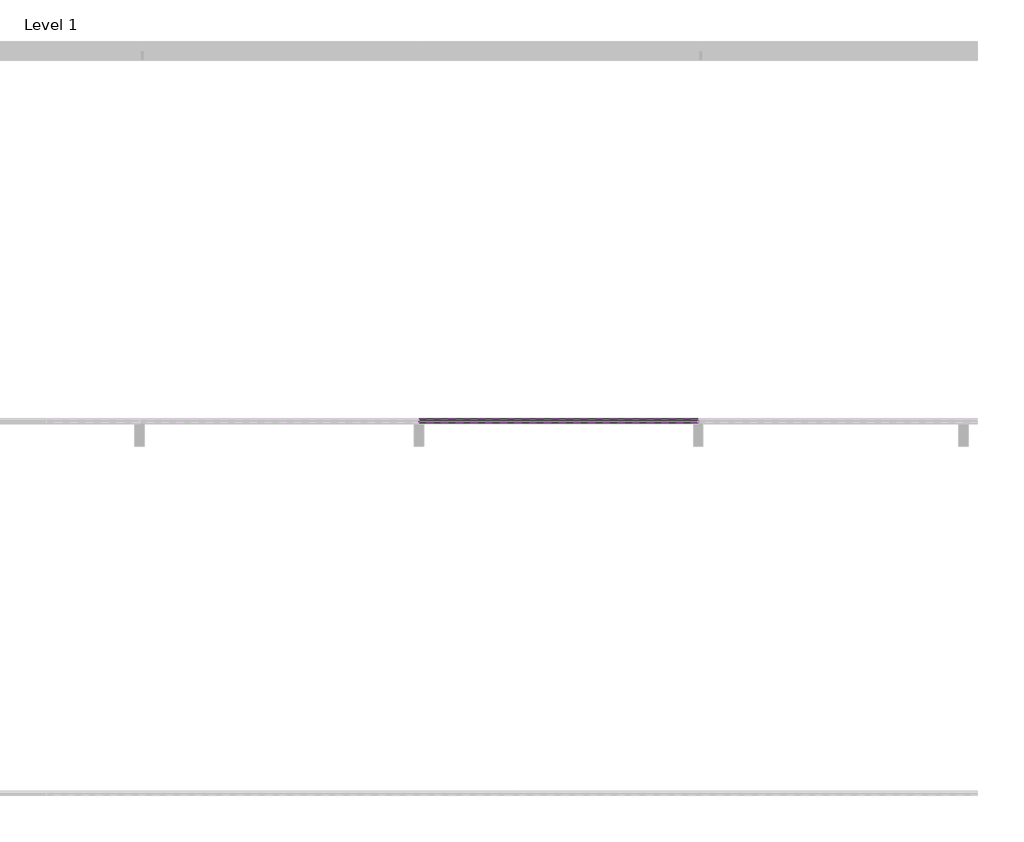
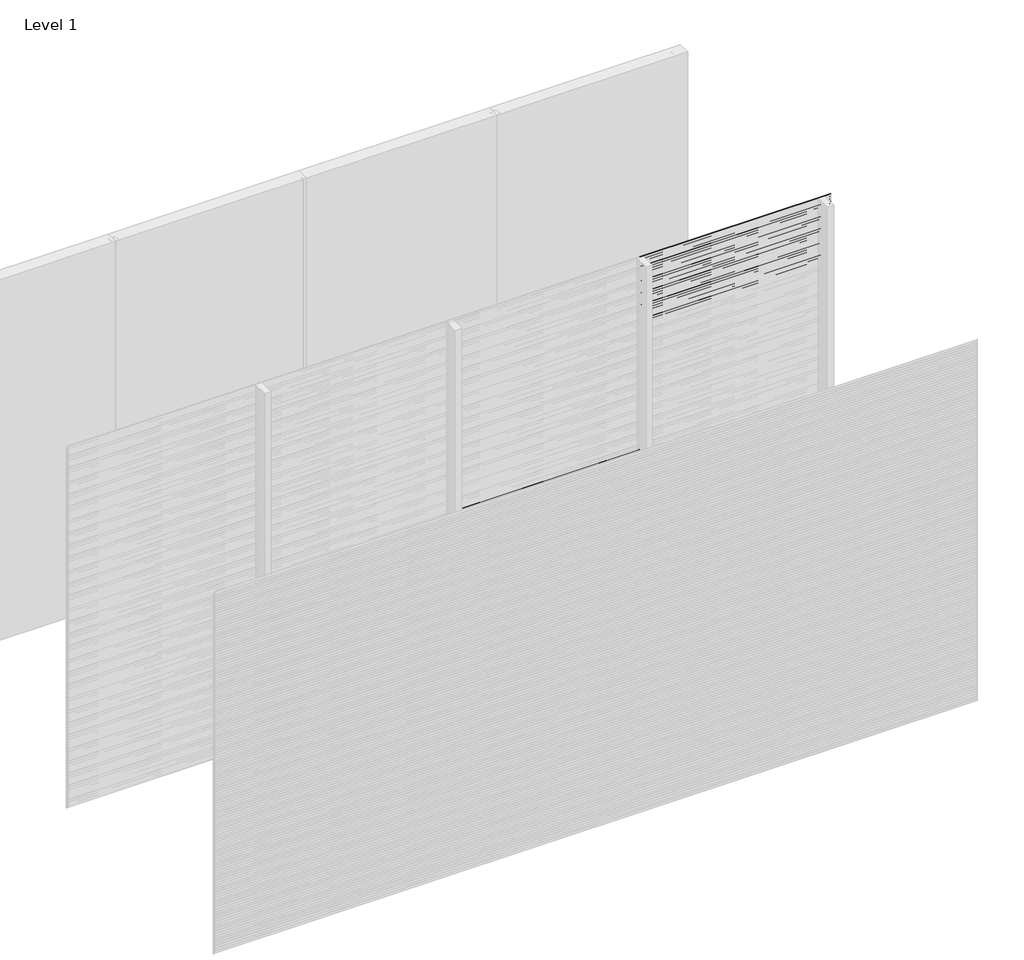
# One storey, part 7 of 31: 98 proxies.
"""IFC4 building model written with IfcOpenShell, lengths in millimetres."""

from ifc_helpers import new_model, si_unit, frame, origin, place, context, project, spatial, polyline, outline, extrude, element, save

model = new_model("IFC4")

# Units and contexts
model_context = context("Model", 3, world=origin())
ifc_project = project(units=[si_unit("LENGTHUNIT", "METRE", prefix="MILLI")], contexts=[model_context])

# Site, building, storey
site = spatial("IfcSite", under=ifc_project)
building = spatial("IfcBuilding", under=site)
storey = spatial("IfcBuildingStorey", under=building, Name="Level 1", Elevation=0.0)

# Proxies
placement = place(None, origin())
element("IfcBuildingElementProxy", 1, Name="Wall Sweeps", at=placement, inside=storey, context=model_context, shape_type="SweptSolid", body=[
    extrude(outline(polyline([(-17995.0, 3000.0), (-17995.0, 2988.942893), (-17976.0, 2973.0), (-17976.0, 2960.0), (-17997.0, 2977.6210923), (-17997.0, 3000.0), (-17995.0, 3000.0)])), frame((4499.9999998, 0.0, 0.0), z_axis=(1.0, 0.0, 0.0), x_axis=(0.0, 1.0, 0.0)), (0.0, 0.0, 1.0), 1500.0000002),
])
element("IfcBuildingElementProxy", 2, Name="Wall Sweeps", at=placement, inside=storey, context=model_context, shape_type="SweptSolid", body=[
    extrude(outline(polyline([(-17995.0, 2980.0), (-17995.0, 2968.942893), (-17976.0, 2953.0), (-17976.0, 2940.0), (-17997.0, 2957.6210923), (-17997.0, 2980.0), (-17995.0, 2980.0)])), frame((4499.9999998, 0.0, 0.0), z_axis=(1.0, 0.0, 0.0), x_axis=(0.0, 1.0, 0.0)), (0.0, 0.0, 1.0), 1500.0000002),
])
element("IfcBuildingElementProxy", 3, Name="Wall Sweeps", at=placement, inside=storey, context=model_context, shape_type="SweptSolid", body=[
    extrude(outline(polyline([(-17995.0, 2960.0), (-17995.0, 2948.942893), (-17976.0, 2933.0), (-17976.0, 2920.0), (-17997.0, 2937.6210923), (-17997.0, 2960.0), (-17995.0, 2960.0)])), frame((4499.9999998, 0.0, 0.0), z_axis=(1.0, 0.0, 0.0), x_axis=(0.0, 1.0, 0.0)), (0.0, 0.0, 1.0), 1500.0000002),
])
element("IfcBuildingElementProxy", 4, Name="Wall Sweeps", at=placement, inside=storey, context=model_context, shape_type="SweptSolid", body=[
    extrude(outline(polyline([(-17995.0, 2940.0), (-17995.0, 2928.942893), (-17976.0, 2913.0), (-17976.0, 2900.0), (-17997.0, 2917.6210923), (-17997.0, 2940.0), (-17995.0, 2940.0)])), frame((4499.9999998, 0.0, 0.0), z_axis=(1.0, 0.0, 0.0), x_axis=(0.0, 1.0, 0.0)), (0.0, 0.0, 1.0), 1500.0000002),
])
element("IfcBuildingElementProxy", 5, Name="Wall Sweeps", at=placement, inside=storey, context=model_context, shape_type="SweptSolid", body=[
    extrude(outline(polyline([(-17995.0, 2920.0), (-17995.0, 2908.942893), (-17976.0, 2893.0), (-17976.0, 2880.0), (-17997.0, 2897.6210923), (-17997.0, 2920.0), (-17995.0, 2920.0)])), frame((4499.9999998, 0.0, 0.0), z_axis=(1.0, 0.0, 0.0), x_axis=(0.0, 1.0, 0.0)), (0.0, 0.0, 1.0), 1500.0000002),
])
element("IfcBuildingElementProxy", 6, Name="Wall Sweeps", at=placement, inside=storey, context=model_context, shape_type="SweptSolid", body=[
    extrude(outline(polyline([(-17995.0, 2900.0), (-17995.0, 2888.942893), (-17976.0, 2873.0), (-17976.0, 2860.0), (-17997.0, 2877.6210923), (-17997.0, 2900.0), (-17995.0, 2900.0)])), frame((4499.9999998, 0.0, 0.0), z_axis=(1.0, 0.0, 0.0), x_axis=(0.0, 1.0, 0.0)), (0.0, 0.0, 1.0), 1500.0000002),
])
element("IfcBuildingElementProxy", 7, Name="Wall Sweeps", at=placement, inside=storey, context=model_context, shape_type="SweptSolid", body=[
    extrude(outline(polyline([(-17995.0, 2880.0), (-17995.0, 2868.942893), (-17976.0, 2853.0), (-17976.0, 2840.0), (-17997.0, 2857.6210923), (-17997.0, 2880.0), (-17995.0, 2880.0)])), frame((4499.9999998, 0.0, 0.0), z_axis=(1.0, 0.0, 0.0), x_axis=(0.0, 1.0, 0.0)), (0.0, 0.0, 1.0), 1500.0000002),
])
element("IfcBuildingElementProxy", 8, Name="Wall Sweeps", at=placement, inside=storey, context=model_context, shape_type="SweptSolid", body=[
    extrude(outline(polyline([(-17995.0, 2860.0), (-17995.0, 2848.942893), (-17976.0, 2833.0), (-17976.0, 2820.0), (-17997.0, 2837.6210923), (-17997.0, 2860.0), (-17995.0, 2860.0)])), frame((4499.9999998, 0.0, 0.0), z_axis=(1.0, 0.0, 0.0), x_axis=(0.0, 1.0, 0.0)), (0.0, 0.0, 1.0), 1500.0000002),
])
element("IfcBuildingElementProxy", 9, Name="Wall Sweeps", at=placement, inside=storey, context=model_context, shape_type="SweptSolid", body=[
    extrude(outline(polyline([(-17995.0, 2840.0), (-17995.0, 2828.942893), (-17976.0, 2813.0), (-17976.0, 2800.0), (-17997.0, 2817.6210923), (-17997.0, 2840.0), (-17995.0, 2840.0)])), frame((4499.9999998, 0.0, 0.0), z_axis=(1.0, 0.0, 0.0), x_axis=(0.0, 1.0, 0.0)), (0.0, 0.0, 1.0), 1500.0000002),
])
element("IfcBuildingElementProxy", 10, Name="Wall Sweeps", at=placement, inside=storey, context=model_context, shape_type="SweptSolid", body=[
    extrude(outline(polyline([(-17995.0, 2820.0), (-17995.0, 2808.942893), (-17976.0, 2793.0), (-17976.0, 2780.0), (-17997.0, 2797.6210923), (-17997.0, 2820.0), (-17995.0, 2820.0)])), frame((4499.9999998, 0.0, 0.0), z_axis=(1.0, 0.0, 0.0), x_axis=(0.0, 1.0, 0.0)), (0.0, 0.0, 1.0), 1500.0000002),
])
element("IfcBuildingElementProxy", 11, Name="Wall Sweeps", at=placement, inside=storey, context=model_context, shape_type="SweptSolid", body=[
    extrude(outline(polyline([(-17995.0, 2800.0), (-17995.0, 2788.942893), (-17976.0, 2773.0), (-17976.0, 2760.0), (-17997.0, 2777.6210923), (-17997.0, 2800.0), (-17995.0, 2800.0)])), frame((4499.9999998, 0.0, 0.0), z_axis=(1.0, 0.0, 0.0), x_axis=(0.0, 1.0, 0.0)), (0.0, 0.0, 1.0), 1500.0000002),
])
element("IfcBuildingElementProxy", 12, Name="Wall Sweeps", at=placement, inside=storey, context=model_context, shape_type="SweptSolid", body=[
    extrude(outline(polyline([(-17995.0, 2780.0), (-17995.0, 2768.942893), (-17976.0, 2753.0), (-17976.0, 2740.0), (-17997.0, 2757.6210923), (-17997.0, 2780.0), (-17995.0, 2780.0)])), frame((4499.9999998, 0.0, 0.0), z_axis=(1.0, 0.0, 0.0), x_axis=(0.0, 1.0, 0.0)), (0.0, 0.0, 1.0), 1500.0000002),
])
element("IfcBuildingElementProxy", 13, Name="Wall Sweeps", at=placement, inside=storey, context=model_context, shape_type="SweptSolid", body=[
    extrude(outline(polyline([(-17995.0, 2760.0), (-17995.0, 2748.942893), (-17976.0, 2733.0), (-17976.0, 2720.0), (-17997.0, 2737.6210923), (-17997.0, 2760.0), (-17995.0, 2760.0)])), frame((4499.9999998, 0.0, 0.0), z_axis=(1.0, 0.0, 0.0), x_axis=(0.0, 1.0, 0.0)), (0.0, 0.0, 1.0), 1500.0000002),
])
element("IfcBuildingElementProxy", 14, Name="Wall Sweeps", at=placement, inside=storey, context=model_context, shape_type="SweptSolid", body=[
    extrude(outline(polyline([(-17995.0, 2740.0), (-17995.0, 2728.942893), (-17976.0, 2713.0), (-17976.0, 2700.0), (-17997.0, 2717.6210923), (-17997.0, 2740.0), (-17995.0, 2740.0)])), frame((4499.9999998, 0.0, 0.0), z_axis=(1.0, 0.0, 0.0), x_axis=(0.0, 1.0, 0.0)), (0.0, 0.0, 1.0), 1500.0000002),
])
element("IfcBuildingElementProxy", 15, Name="Wall Sweeps", at=placement, inside=storey, context=model_context, shape_type="SweptSolid", body=[
    extrude(outline(polyline([(-17995.0, 2720.0), (-17995.0, 2708.942893), (-17976.0, 2693.0), (-17976.0, 2680.0), (-17997.0, 2697.6210923), (-17997.0, 2720.0), (-17995.0, 2720.0)])), frame((4499.9999998, 0.0, 0.0), z_axis=(1.0, 0.0, 0.0), x_axis=(0.0, 1.0, 0.0)), (0.0, 0.0, 1.0), 1500.0000002),
])
element("IfcBuildingElementProxy", 16, Name="Wall Sweeps", at=placement, inside=storey, context=model_context, shape_type="SweptSolid", body=[
    extrude(outline(polyline([(-17995.0, 2700.0), (-17995.0, 2688.942893), (-17976.0, 2673.0), (-17976.0, 2660.0), (-17997.0, 2677.6210923), (-17997.0, 2700.0), (-17995.0, 2700.0)])), frame((4499.9999998, 0.0, 0.0), z_axis=(1.0, 0.0, 0.0), x_axis=(0.0, 1.0, 0.0)), (0.0, 0.0, 1.0), 1500.0000002),
])
element("IfcBuildingElementProxy", 17, Name="Wall Sweeps", at=placement, inside=storey, context=model_context, shape_type="SweptSolid", body=[
    extrude(outline(polyline([(-17995.0, 2680.0), (-17995.0, 2668.942893), (-17976.0, 2653.0), (-17976.0, 2640.0), (-17997.0, 2657.6210923), (-17997.0, 2680.0), (-17995.0, 2680.0)])), frame((4499.9999998, 0.0, 0.0), z_axis=(1.0, 0.0, 0.0), x_axis=(0.0, 1.0, 0.0)), (0.0, 0.0, 1.0), 1500.0000002),
])
element("IfcBuildingElementProxy", 18, Name="Wall Sweeps", at=placement, inside=storey, context=model_context, shape_type="SweptSolid", body=[
    extrude(outline(polyline([(-17995.0, 2660.0), (-17995.0, 2648.942893), (-17976.0, 2633.0), (-17976.0, 2620.0), (-17997.0, 2637.6210923), (-17997.0, 2660.0), (-17995.0, 2660.0)])), frame((4499.9999998, 0.0, 0.0), z_axis=(1.0, 0.0, 0.0), x_axis=(0.0, 1.0, 0.0)), (0.0, 0.0, 1.0), 1500.0000002),
])
element("IfcBuildingElementProxy", 19, Name="Wall Sweeps", at=placement, inside=storey, context=model_context, shape_type="SweptSolid", body=[
    extrude(outline(polyline([(-17995.0, 2640.0), (-17995.0, 2628.942893), (-17976.0, 2613.0), (-17976.0, 2600.0), (-17997.0, 2617.6210923), (-17997.0, 2640.0), (-17995.0, 2640.0)])), frame((4499.9999998, 0.0, 0.0), z_axis=(1.0, 0.0, 0.0), x_axis=(0.0, 1.0, 0.0)), (0.0, 0.0, 1.0), 1500.0000002),
])
element("IfcBuildingElementProxy", 20, Name="Wall Sweeps", at=placement, inside=storey, context=model_context, shape_type="SweptSolid", body=[
    extrude(outline(polyline([(-17995.0, 2620.0), (-17995.0, 2608.942893), (-17976.0, 2593.0), (-17976.0, 2580.0), (-17997.0, 2597.6210923), (-17997.0, 2620.0), (-17995.0, 2620.0)])), frame((4499.9999998, 0.0, 0.0), z_axis=(1.0, 0.0, 0.0), x_axis=(0.0, 1.0, 0.0)), (0.0, 0.0, 1.0), 1500.0000002),
])
element("IfcBuildingElementProxy", 21, Name="Wall Sweeps", at=placement, inside=storey, context=model_context, shape_type="SweptSolid", body=[
    extrude(outline(polyline([(-17995.0, 2600.0), (-17995.0, 2588.942893), (-17976.0, 2573.0), (-17976.0, 2560.0), (-17997.0, 2577.6210923), (-17997.0, 2600.0), (-17995.0, 2600.0)])), frame((4499.9999998, 0.0, 0.0), z_axis=(1.0, 0.0, 0.0), x_axis=(0.0, 1.0, 0.0)), (0.0, 0.0, 1.0), 1500.0000002),
])
element("IfcBuildingElementProxy", 22, Name="Wall Sweeps", at=placement, inside=storey, context=model_context, shape_type="SweptSolid", body=[
    extrude(outline(polyline([(-17995.0, 2580.0), (-17995.0, 2568.942893), (-17976.0, 2553.0), (-17976.0, 2540.0), (-17997.0, 2557.6210923), (-17997.0, 2580.0), (-17995.0, 2580.0)])), frame((4499.9999998, 0.0, 0.0), z_axis=(1.0, 0.0, 0.0), x_axis=(0.0, 1.0, 0.0)), (0.0, 0.0, 1.0), 1500.0000002),
])
element("IfcBuildingElementProxy", 23, Name="Wall Sweeps", at=placement, inside=storey, context=model_context, shape_type="SweptSolid", body=[
    extrude(outline(polyline([(-17995.0, 2560.0), (-17995.0, 2548.942893), (-17976.0, 2533.0), (-17976.0, 2520.0), (-17997.0, 2537.6210923), (-17997.0, 2560.0), (-17995.0, 2560.0)])), frame((4499.9999998, 0.0, 0.0), z_axis=(1.0, 0.0, 0.0), x_axis=(0.0, 1.0, 0.0)), (0.0, 0.0, 1.0), 1500.0000002),
])
element("IfcBuildingElementProxy", 24, Name="Wall Sweeps", at=placement, inside=storey, context=model_context, shape_type="SweptSolid", body=[
    extrude(outline(polyline([(-17995.0, 2540.0), (-17995.0, 2528.942893), (-17976.0, 2513.0), (-17976.0, 2500.0), (-17997.0, 2517.6210923), (-17997.0, 2540.0), (-17995.0, 2540.0)])), frame((4499.9999998, 0.0, 0.0), z_axis=(1.0, 0.0, 0.0), x_axis=(0.0, 1.0, 0.0)), (0.0, 0.0, 1.0), 1500.0000002),
])
element("IfcBuildingElementProxy", 25, Name="Wall Sweeps", at=placement, inside=storey, context=model_context, shape_type="SweptSolid", body=[
    extrude(outline(polyline([(-17995.0, 2520.0), (-17995.0, 2508.942893), (-17976.0, 2493.0), (-17976.0, 2480.0), (-17997.0, 2497.6210923), (-17997.0, 2520.0), (-17995.0, 2520.0)])), frame((4499.9999998, 0.0, 0.0), z_axis=(1.0, 0.0, 0.0), x_axis=(0.0, 1.0, 0.0)), (0.0, 0.0, 1.0), 1500.0000002),
])
element("IfcBuildingElementProxy", 26, Name="Wall Sweeps", at=placement, inside=storey, context=model_context, shape_type="SweptSolid", body=[
    extrude(outline(polyline([(-17995.0, 2500.0), (-17995.0, 2488.942893), (-17976.0, 2473.0), (-17976.0, 2460.0), (-17997.0, 2477.6210923), (-17997.0, 2500.0), (-17995.0, 2500.0)])), frame((4499.9999998, 0.0, 0.0), z_axis=(1.0, 0.0, 0.0), x_axis=(0.0, 1.0, 0.0)), (0.0, 0.0, 1.0), 1500.0000002),
])
element("IfcBuildingElementProxy", 27, Name="Wall Sweeps", at=placement, inside=storey, context=model_context, shape_type="SweptSolid", body=[
    extrude(outline(polyline([(-17995.0, 2480.0), (-17995.0, 2468.942893), (-17976.0, 2453.0), (-17976.0, 2440.0), (-17997.0, 2457.6210923), (-17997.0, 2480.0), (-17995.0, 2480.0)])), frame((4499.9999998, 0.0, 0.0), z_axis=(1.0, 0.0, 0.0), x_axis=(0.0, 1.0, 0.0)), (0.0, 0.0, 1.0), 1500.0000002),
])
element("IfcBuildingElementProxy", 28, Name="Wall Sweeps", at=placement, inside=storey, context=model_context, shape_type="SweptSolid", body=[
    extrude(outline(polyline([(-17995.0, 1420.0), (-17995.0, 1408.942893), (-17976.0, 1393.0), (-17976.0, 1380.0), (-17997.0, 1397.6210923), (-17997.0, 1420.0), (-17995.0, 1420.0)])), frame((3000.0, 0.0, 0.0), z_axis=(1.0, 0.0, 0.0), x_axis=(0.0, 1.0, 0.0)), (0.0, 0.0, 1.0), 1499.9999998),
])
element("IfcBuildingElementProxy", 29, Name="Wall Sweeps", at=placement, inside=storey, context=model_context, shape_type="SweptSolid", body=[
    extrude(outline(polyline([(-17995.0, 1400.0), (-17995.0, 1388.942893), (-17976.0, 1373.0), (-17976.0, 1360.0), (-17997.0, 1377.6210923), (-17997.0, 1400.0), (-17995.0, 1400.0)])), frame((3000.0, 0.0, 0.0), z_axis=(1.0, 0.0, 0.0), x_axis=(0.0, 1.0, 0.0)), (0.0, 0.0, 1.0), 1499.9999998),
])
element("IfcBuildingElementProxy", 30, Name="Wall Sweeps", at=placement, inside=storey, context=model_context, shape_type="SweptSolid", body=[
    extrude(outline(polyline([(-17995.0, 1380.0), (-17995.0, 1368.942893), (-17976.0, 1353.0), (-17976.0, 1340.0), (-17997.0, 1357.6210923), (-17997.0, 1380.0), (-17995.0, 1380.0)])), frame((3000.0, 0.0, 0.0), z_axis=(1.0, 0.0, 0.0), x_axis=(0.0, 1.0, 0.0)), (0.0, 0.0, 1.0), 1499.9999998),
])
element("IfcBuildingElementProxy", 31, Name="Wall Sweeps", at=placement, inside=storey, context=model_context, shape_type="SweptSolid", body=[
    extrude(outline(polyline([(-17995.0, 1360.0), (-17995.0, 1348.942893), (-17976.0, 1333.0), (-17976.0, 1320.0), (-17997.0, 1337.6210923), (-17997.0, 1360.0), (-17995.0, 1360.0)])), frame((3000.0, 0.0, 0.0), z_axis=(1.0, 0.0, 0.0), x_axis=(0.0, 1.0, 0.0)), (0.0, 0.0, 1.0), 1499.9999998),
])
element("IfcBuildingElementProxy", 32, Name="Wall Sweeps", at=placement, inside=storey, context=model_context, shape_type="SweptSolid", body=[
    extrude(outline(polyline([(-17995.0, 1340.0), (-17995.0, 1328.942893), (-17976.0, 1313.0), (-17976.0, 1300.0), (-17997.0, 1317.6210923), (-17997.0, 1340.0), (-17995.0, 1340.0)])), frame((3000.0, 0.0, 0.0), z_axis=(1.0, 0.0, 0.0), x_axis=(0.0, 1.0, 0.0)), (0.0, 0.0, 1.0), 1499.9999998),
])
element("IfcBuildingElementProxy", 33, Name="Wall Sweeps", at=placement, inside=storey, context=model_context, shape_type="SweptSolid", body=[
    extrude(outline(polyline([(-17995.0, 1320.0), (-17995.0, 1308.942893), (-17976.0, 1293.0), (-17976.0, 1280.0), (-17997.0, 1297.6210923), (-17997.0, 1320.0), (-17995.0, 1320.0)])), frame((3000.0, 0.0, 0.0), z_axis=(1.0, 0.0, 0.0), x_axis=(0.0, 1.0, 0.0)), (0.0, 0.0, 1.0), 1499.9999998),
])
element("IfcBuildingElementProxy", 34, Name="Wall Sweeps", at=placement, inside=storey, context=model_context, shape_type="SweptSolid", body=[
    extrude(outline(polyline([(-17995.0, 1300.0), (-17995.0, 1288.942893), (-17976.0, 1273.0), (-17976.0, 1260.0), (-17997.0, 1277.6210923), (-17997.0, 1300.0), (-17995.0, 1300.0)])), frame((3000.0, 0.0, 0.0), z_axis=(1.0, 0.0, 0.0), x_axis=(0.0, 1.0, 0.0)), (0.0, 0.0, 1.0), 1499.9999998),
])
element("IfcBuildingElementProxy", 35, Name="Wall Sweeps", at=placement, inside=storey, context=model_context, shape_type="SweptSolid", body=[
    extrude(outline(polyline([(-17995.0, 1280.0), (-17995.0, 1268.942893), (-17976.0, 1253.0), (-17976.0, 1240.0), (-17997.0, 1257.6210923), (-17997.0, 1280.0), (-17995.0, 1280.0)])), frame((3000.0, 0.0, 0.0), z_axis=(1.0, 0.0, 0.0), x_axis=(0.0, 1.0, 0.0)), (0.0, 0.0, 1.0), 1499.9999998),
])
element("IfcBuildingElementProxy", 36, Name="Wall Sweeps", at=placement, inside=storey, context=model_context, shape_type="SweptSolid", body=[
    extrude(outline(polyline([(-17995.0, 1260.0), (-17995.0, 1248.942893), (-17976.0, 1233.0), (-17976.0, 1220.0), (-17997.0, 1237.6210923), (-17997.0, 1260.0), (-17995.0, 1260.0)])), frame((3000.0, 0.0, 0.0), z_axis=(1.0, 0.0, 0.0), x_axis=(0.0, 1.0, 0.0)), (0.0, 0.0, 1.0), 1499.9999998),
])
element("IfcBuildingElementProxy", 37, Name="Wall Sweeps", at=placement, inside=storey, context=model_context, shape_type="SweptSolid", body=[
    extrude(outline(polyline([(-17995.0, 1240.0), (-17995.0, 1228.942893), (-17976.0, 1213.0), (-17976.0, 1200.0), (-17997.0, 1217.6210923), (-17997.0, 1240.0), (-17995.0, 1240.0)])), frame((3000.0, 0.0, 0.0), z_axis=(1.0, 0.0, 0.0), x_axis=(0.0, 1.0, 0.0)), (0.0, 0.0, 1.0), 1499.9999998),
])
element("IfcBuildingElementProxy", 38, Name="Wall Sweeps", at=placement, inside=storey, context=model_context, shape_type="SweptSolid", body=[
    extrude(outline(polyline([(-17995.0, 1220.0), (-17995.0, 1208.942893), (-17976.0, 1193.0), (-17976.0, 1180.0), (-17997.0, 1197.6210923), (-17997.0, 1220.0), (-17995.0, 1220.0)])), frame((3000.0, 0.0, 0.0), z_axis=(1.0, 0.0, 0.0), x_axis=(0.0, 1.0, 0.0)), (0.0, 0.0, 1.0), 1499.9999998),
])
element("IfcBuildingElementProxy", 39, Name="Wall Sweeps", at=placement, inside=storey, context=model_context, shape_type="SweptSolid", body=[
    extrude(outline(polyline([(-17995.0, 1200.0), (-17995.0, 1188.942893), (-17976.0, 1173.0), (-17976.0, 1160.0), (-17997.0, 1177.6210923), (-17997.0, 1200.0), (-17995.0, 1200.0)])), frame((3000.0, 0.0, 0.0), z_axis=(1.0, 0.0, 0.0), x_axis=(0.0, 1.0, 0.0)), (0.0, 0.0, 1.0), 1499.9999998),
])
element("IfcBuildingElementProxy", 40, Name="Wall Sweeps", at=placement, inside=storey, context=model_context, shape_type="SweptSolid", body=[
    extrude(outline(polyline([(-17995.0, 1180.0), (-17995.0, 1168.942893), (-17976.0, 1153.0), (-17976.0, 1140.0), (-17997.0, 1157.6210923), (-17997.0, 1180.0), (-17995.0, 1180.0)])), frame((3000.0, 0.0, 0.0), z_axis=(1.0, 0.0, 0.0), x_axis=(0.0, 1.0, 0.0)), (0.0, 0.0, 1.0), 1499.9999998),
])
element("IfcBuildingElementProxy", 41, Name="Wall Sweeps", at=placement, inside=storey, context=model_context, shape_type="SweptSolid", body=[
    extrude(outline(polyline([(-17995.0, 1160.0), (-17995.0, 1148.942893), (-17976.0, 1133.0), (-17976.0, 1120.0), (-17997.0, 1137.6210923), (-17997.0, 1160.0), (-17995.0, 1160.0)])), frame((3000.0, 0.0, 0.0), z_axis=(1.0, 0.0, 0.0), x_axis=(0.0, 1.0, 0.0)), (0.0, 0.0, 1.0), 1499.9999998),
])
element("IfcBuildingElementProxy", 42, Name="Wall Sweeps", at=placement, inside=storey, context=model_context, shape_type="SweptSolid", body=[
    extrude(outline(polyline([(-17995.0, 1140.0), (-17995.0, 1128.942893), (-17976.0, 1113.0), (-17976.0, 1100.0), (-17997.0, 1117.6210923), (-17997.0, 1140.0), (-17995.0, 1140.0)])), frame((3000.0, 0.0, 0.0), z_axis=(1.0, 0.0, 0.0), x_axis=(0.0, 1.0, 0.0)), (0.0, 0.0, 1.0), 1499.9999998),
])
element("IfcBuildingElementProxy", 43, Name="Wall Sweeps", at=placement, inside=storey, context=model_context, shape_type="SweptSolid", body=[
    extrude(outline(polyline([(-17995.0, 1120.0), (-17995.0, 1108.942893), (-17976.0, 1093.0), (-17976.0, 1080.0), (-17997.0, 1097.6210923), (-17997.0, 1120.0), (-17995.0, 1120.0)])), frame((3000.0, 0.0, 0.0), z_axis=(1.0, 0.0, 0.0), x_axis=(0.0, 1.0, 0.0)), (0.0, 0.0, 1.0), 1499.9999998),
])
element("IfcBuildingElementProxy", 44, Name="Wall Sweeps", at=placement, inside=storey, context=model_context, shape_type="SweptSolid", body=[
    extrude(outline(polyline([(-17995.0, 1100.0), (-17995.0, 1088.942893), (-17976.0, 1073.0), (-17976.0, 1060.0), (-17997.0, 1077.6210923), (-17997.0, 1100.0), (-17995.0, 1100.0)])), frame((3000.0, 0.0, 0.0), z_axis=(1.0, 0.0, 0.0), x_axis=(0.0, 1.0, 0.0)), (0.0, 0.0, 1.0), 1499.9999998),
])
element("IfcBuildingElementProxy", 45, Name="Wall Sweeps", at=placement, inside=storey, context=model_context, shape_type="SweptSolid", body=[
    extrude(outline(polyline([(-17995.0, 1080.0), (-17995.0, 1068.942893), (-17976.0, 1053.0), (-17976.0, 1040.0), (-17997.0, 1057.6210923), (-17997.0, 1080.0), (-17995.0, 1080.0)])), frame((3000.0, 0.0, 0.0), z_axis=(1.0, 0.0, 0.0), x_axis=(0.0, 1.0, 0.0)), (0.0, 0.0, 1.0), 1499.9999998),
])
element("IfcBuildingElementProxy", 46, Name="Wall Sweeps", at=placement, inside=storey, context=model_context, shape_type="SweptSolid", body=[
    extrude(outline(polyline([(-17995.0, 1060.0), (-17995.0, 1048.942893), (-17976.0, 1033.0), (-17976.0, 1020.0), (-17997.0, 1037.6210923), (-17997.0, 1060.0), (-17995.0, 1060.0)])), frame((3000.0, 0.0, 0.0), z_axis=(1.0, 0.0, 0.0), x_axis=(0.0, 1.0, 0.0)), (0.0, 0.0, 1.0), 1499.9999998),
])
element("IfcBuildingElementProxy", 47, Name="Wall Sweeps", at=placement, inside=storey, context=model_context, shape_type="SweptSolid", body=[
    extrude(outline(polyline([(-17995.0, 1040.0), (-17995.0, 1028.942893), (-17976.0, 1013.0), (-17976.0, 1000.0), (-17997.0, 1017.6210923), (-17997.0, 1040.0), (-17995.0, 1040.0)])), frame((3000.0, 0.0, 0.0), z_axis=(1.0, 0.0, 0.0), x_axis=(0.0, 1.0, 0.0)), (0.0, 0.0, 1.0), 1499.9999998),
])
element("IfcBuildingElementProxy", 48, Name="Wall Sweeps", at=placement, inside=storey, context=model_context, shape_type="SweptSolid", body=[
    extrude(outline(polyline([(-17995.0, 1020.0), (-17995.0, 1008.942893), (-17976.0, 993.0), (-17976.0, 980.0), (-17997.0, 997.6210923), (-17997.0, 1020.0), (-17995.0, 1020.0)])), frame((3000.0, 0.0, 0.0), z_axis=(1.0, 0.0, 0.0), x_axis=(0.0, 1.0, 0.0)), (0.0, 0.0, 1.0), 1499.9999998),
])
element("IfcBuildingElementProxy", 49, Name="Wall Sweeps", at=placement, inside=storey, context=model_context, shape_type="SweptSolid", body=[
    extrude(outline(polyline([(-17995.0, 1000.0), (-17995.0, 988.942893), (-17976.0, 973.0), (-17976.0, 960.0), (-17997.0, 977.6210923), (-17997.0, 1000.0), (-17995.0, 1000.0)])), frame((3000.0, 0.0, 0.0), z_axis=(1.0, 0.0, 0.0), x_axis=(0.0, 1.0, 0.0)), (0.0, 0.0, 1.0), 1499.9999998),
])
element("IfcBuildingElementProxy", 50, Name="Wall Sweeps", at=placement, inside=storey, context=model_context, shape_type="SweptSolid", body=[
    extrude(outline(polyline([(-17995.0, 980.0), (-17995.0, 968.942893), (-17976.0, 953.0), (-17976.0, 940.0), (-17997.0, 957.6210923), (-17997.0, 980.0), (-17995.0, 980.0)])), frame((3000.0, 0.0, 0.0), z_axis=(1.0, 0.0, 0.0), x_axis=(0.0, 1.0, 0.0)), (0.0, 0.0, 1.0), 1499.9999998),
])
element("IfcBuildingElementProxy", 51, Name="Wall Sweeps", at=placement, inside=storey, context=model_context, shape_type="SweptSolid", body=[
    extrude(outline(polyline([(-17995.0, 960.0), (-17995.0, 948.942893), (-17976.0, 933.0), (-17976.0, 920.0), (-17997.0, 937.6210923), (-17997.0, 960.0), (-17995.0, 960.0)])), frame((3000.0, 0.0, 0.0), z_axis=(1.0, 0.0, 0.0), x_axis=(0.0, 1.0, 0.0)), (0.0, 0.0, 1.0), 1499.9999998),
])
element("IfcBuildingElementProxy", 52, Name="Wall Sweeps", at=placement, inside=storey, context=model_context, shape_type="SweptSolid", body=[
    extrude(outline(polyline([(-17995.0, 940.0), (-17995.0, 928.942893), (-17976.0, 913.0), (-17976.0, 900.0), (-17997.0, 917.6210923), (-17997.0, 940.0), (-17995.0, 940.0)])), frame((3000.0, 0.0, 0.0), z_axis=(1.0, 0.0, 0.0), x_axis=(0.0, 1.0, 0.0)), (0.0, 0.0, 1.0), 1499.9999998),
])
element("IfcBuildingElementProxy", 53, Name="Wall Sweeps", at=placement, inside=storey, context=model_context, shape_type="SweptSolid", body=[
    extrude(outline(polyline([(-17995.0, 920.0), (-17995.0, 908.942893), (-17976.0, 893.0), (-17976.0, 880.0), (-17997.0, 897.6210923), (-17997.0, 920.0), (-17995.0, 920.0)])), frame((3000.0, 0.0, 0.0), z_axis=(1.0, 0.0, 0.0), x_axis=(0.0, 1.0, 0.0)), (0.0, 0.0, 1.0), 1499.9999998),
])
element("IfcBuildingElementProxy", 54, Name="Wall Sweeps", at=placement, inside=storey, context=model_context, shape_type="SweptSolid", body=[
    extrude(outline(polyline([(-17995.0, 900.0), (-17995.0, 888.942893), (-17976.0, 873.0), (-17976.0, 860.0), (-17997.0, 877.6210923), (-17997.0, 900.0), (-17995.0, 900.0)])), frame((3000.0, 0.0, 0.0), z_axis=(1.0, 0.0, 0.0), x_axis=(0.0, 1.0, 0.0)), (0.0, 0.0, 1.0), 1499.9999998),
])
element("IfcBuildingElementProxy", 55, Name="Wall Sweeps", at=placement, inside=storey, context=model_context, shape_type="SweptSolid", body=[
    extrude(outline(polyline([(-17995.0, 880.0), (-17995.0, 868.942893), (-17976.0, 853.0), (-17976.0, 840.0), (-17997.0, 857.6210923), (-17997.0, 880.0), (-17995.0, 880.0)])), frame((3000.0, 0.0, 0.0), z_axis=(1.0, 0.0, 0.0), x_axis=(0.0, 1.0, 0.0)), (0.0, 0.0, 1.0), 1499.9999998),
])
element("IfcBuildingElementProxy", 56, Name="Wall Sweeps", at=placement, inside=storey, context=model_context, shape_type="SweptSolid", body=[
    extrude(outline(polyline([(-17995.0, 860.0), (-17995.0, 848.942893), (-17976.0, 833.0), (-17976.0, 820.0), (-17997.0, 837.6210923), (-17997.0, 860.0), (-17995.0, 860.0)])), frame((3000.0, 0.0, 0.0), z_axis=(1.0, 0.0, 0.0), x_axis=(0.0, 1.0, 0.0)), (0.0, 0.0, 1.0), 1499.9999998),
])
element("IfcBuildingElementProxy", 57, Name="Wall Sweeps", at=placement, inside=storey, context=model_context, shape_type="SweptSolid", body=[
    extrude(outline(polyline([(-17995.0, 840.0), (-17995.0, 828.942893), (-17976.0, 813.0), (-17976.0, 800.0), (-17997.0, 817.6210923), (-17997.0, 840.0), (-17995.0, 840.0)])), frame((3000.0, 0.0, 0.0), z_axis=(1.0, 0.0, 0.0), x_axis=(0.0, 1.0, 0.0)), (0.0, 0.0, 1.0), 1499.9999998),
])
element("IfcBuildingElementProxy", 58, Name="Wall Sweeps", at=placement, inside=storey, context=model_context, shape_type="SweptSolid", body=[
    extrude(outline(polyline([(-17995.0, 820.0), (-17995.0, 808.942893), (-17976.0, 793.0), (-17976.0, 780.0), (-17997.0, 797.6210923), (-17997.0, 820.0), (-17995.0, 820.0)])), frame((3000.0, 0.0, 0.0), z_axis=(1.0, 0.0, 0.0), x_axis=(0.0, 1.0, 0.0)), (0.0, 0.0, 1.0), 1499.9999998),
])
element("IfcBuildingElementProxy", 59, Name="Wall Sweeps", at=placement, inside=storey, context=model_context, shape_type="SweptSolid", body=[
    extrude(outline(polyline([(-17995.0, 800.0), (-17995.0, 788.942893), (-17976.0, 773.0), (-17976.0, 760.0), (-17997.0, 777.6210923), (-17997.0, 800.0), (-17995.0, 800.0)])), frame((3000.0, 0.0, 0.0), z_axis=(1.0, 0.0, 0.0), x_axis=(0.0, 1.0, 0.0)), (0.0, 0.0, 1.0), 1499.9999998),
])
element("IfcBuildingElementProxy", 60, Name="Wall Sweeps", at=placement, inside=storey, context=model_context, shape_type="SweptSolid", body=[
    extrude(outline(polyline([(-17995.0, 780.0), (-17995.0, 768.942893), (-17976.0, 753.0), (-17976.0, 740.0), (-17997.0, 757.6210923), (-17997.0, 780.0), (-17995.0, 780.0)])), frame((3000.0, 0.0, 0.0), z_axis=(1.0, 0.0, 0.0), x_axis=(0.0, 1.0, 0.0)), (0.0, 0.0, 1.0), 1499.9999998),
])
element("IfcBuildingElementProxy", 61, Name="Wall Sweeps", at=placement, inside=storey, context=model_context, shape_type="SweptSolid", body=[
    extrude(outline(polyline([(-17995.0, 760.0), (-17995.0, 748.942893), (-17976.0, 733.0), (-17976.0, 720.0), (-17997.0, 737.6210923), (-17997.0, 760.0), (-17995.0, 760.0)])), frame((3000.0, 0.0, 0.0), z_axis=(1.0, 0.0, 0.0), x_axis=(0.0, 1.0, 0.0)), (0.0, 0.0, 1.0), 1499.9999998),
])
element("IfcBuildingElementProxy", 62, Name="Wall Sweeps", at=placement, inside=storey, context=model_context, shape_type="SweptSolid", body=[
    extrude(outline(polyline([(-17995.0, 740.0), (-17995.0, 728.942893), (-17976.0, 713.0), (-17976.0, 700.0), (-17997.0, 717.6210923), (-17997.0, 740.0), (-17995.0, 740.0)])), frame((3000.0, 0.0, 0.0), z_axis=(1.0, 0.0, 0.0), x_axis=(0.0, 1.0, 0.0)), (0.0, 0.0, 1.0), 1499.9999998),
])
element("IfcBuildingElementProxy", 63, Name="Wall Sweeps", at=placement, inside=storey, context=model_context, shape_type="SweptSolid", body=[
    extrude(outline(polyline([(-17995.0, 720.0), (-17995.0, 708.942893), (-17976.0, 693.0), (-17976.0, 680.0), (-17997.0, 697.6210923), (-17997.0, 720.0), (-17995.0, 720.0)])), frame((3000.0, 0.0, 0.0), z_axis=(1.0, 0.0, 0.0), x_axis=(0.0, 1.0, 0.0)), (0.0, 0.0, 1.0), 1499.9999998),
])
element("IfcBuildingElementProxy", 64, Name="Wall Sweeps", at=placement, inside=storey, context=model_context, shape_type="SweptSolid", body=[
    extrude(outline(polyline([(-17995.0, 700.0), (-17995.0, 688.942893), (-17976.0, 673.0), (-17976.0, 660.0), (-17997.0, 677.6210923), (-17997.0, 700.0), (-17995.0, 700.0)])), frame((3000.0, 0.0, 0.0), z_axis=(1.0, 0.0, 0.0), x_axis=(0.0, 1.0, 0.0)), (0.0, 0.0, 1.0), 1499.9999998),
])
element("IfcBuildingElementProxy", 65, Name="Wall Sweeps", at=placement, inside=storey, context=model_context, shape_type="SweptSolid", body=[
    extrude(outline(polyline([(-17995.0, 680.0), (-17995.0, 668.942893), (-17976.0, 653.0), (-17976.0, 640.0), (-17997.0, 657.6210923), (-17997.0, 680.0), (-17995.0, 680.0)])), frame((3000.0, 0.0, 0.0), z_axis=(1.0, 0.0, 0.0), x_axis=(0.0, 1.0, 0.0)), (0.0, 0.0, 1.0), 1499.9999998),
])
element("IfcBuildingElementProxy", 66, Name="Wall Sweeps", at=placement, inside=storey, context=model_context, shape_type="SweptSolid", body=[
    extrude(outline(polyline([(-17995.0, 660.0), (-17995.0, 648.942893), (-17976.0, 633.0), (-17976.0, 620.0), (-17997.0, 637.6210923), (-17997.0, 660.0), (-17995.0, 660.0)])), frame((3000.0, 0.0, 0.0), z_axis=(1.0, 0.0, 0.0), x_axis=(0.0, 1.0, 0.0)), (0.0, 0.0, 1.0), 1499.9999998),
])
element("IfcBuildingElementProxy", 67, Name="Wall Sweeps", at=placement, inside=storey, context=model_context, shape_type="SweptSolid", body=[
    extrude(outline(polyline([(-17995.0, 640.0), (-17995.0, 628.942893), (-17976.0, 613.0), (-17976.0, 600.0), (-17997.0, 617.6210923), (-17997.0, 640.0), (-17995.0, 640.0)])), frame((3000.0, 0.0, 0.0), z_axis=(1.0, 0.0, 0.0), x_axis=(0.0, 1.0, 0.0)), (0.0, 0.0, 1.0), 1499.9999998),
])
element("IfcBuildingElementProxy", 68, Name="Wall Sweeps", at=placement, inside=storey, context=model_context, shape_type="SweptSolid", body=[
    extrude(outline(polyline([(-17995.0, 620.0), (-17995.0, 608.942893), (-17976.0, 593.0), (-17976.0, 580.0), (-17997.0, 597.6210923), (-17997.0, 620.0), (-17995.0, 620.0)])), frame((3000.0, 0.0, 0.0), z_axis=(1.0, 0.0, 0.0), x_axis=(0.0, 1.0, 0.0)), (0.0, 0.0, 1.0), 1499.9999998),
])
element("IfcBuildingElementProxy", 69, Name="Wall Sweeps", at=placement, inside=storey, context=model_context, shape_type="SweptSolid", body=[
    extrude(outline(polyline([(-17995.0, 600.0), (-17995.0, 588.942893), (-17976.0, 573.0), (-17976.0, 560.0), (-17997.0, 577.6210923), (-17997.0, 600.0), (-17995.0, 600.0)])), frame((3000.0, 0.0, 0.0), z_axis=(1.0, 0.0, 0.0), x_axis=(0.0, 1.0, 0.0)), (0.0, 0.0, 1.0), 1499.9999998),
])
element("IfcBuildingElementProxy", 70, Name="Wall Sweeps", at=placement, inside=storey, context=model_context, shape_type="SweptSolid", body=[
    extrude(outline(polyline([(-17995.0, 580.0), (-17995.0, 568.942893), (-17976.0, 553.0), (-17976.0, 540.0), (-17997.0, 557.6210923), (-17997.0, 580.0), (-17995.0, 580.0)])), frame((3000.0, 0.0, 0.0), z_axis=(1.0, 0.0, 0.0), x_axis=(0.0, 1.0, 0.0)), (0.0, 0.0, 1.0), 1499.9999998),
])
element("IfcBuildingElementProxy", 71, Name="Wall Sweeps", at=placement, inside=storey, context=model_context, shape_type="SweptSolid", body=[
    extrude(outline(polyline([(-17995.0, 560.0), (-17995.0, 548.942893), (-17976.0, 533.0), (-17976.0, 520.0), (-17997.0, 537.6210923), (-17997.0, 560.0), (-17995.0, 560.0)])), frame((3000.0, 0.0, 0.0), z_axis=(1.0, 0.0, 0.0), x_axis=(0.0, 1.0, 0.0)), (0.0, 0.0, 1.0), 1499.9999998),
])
element("IfcBuildingElementProxy", 72, Name="Wall Sweeps", at=placement, inside=storey, context=model_context, shape_type="SweptSolid", body=[
    extrude(outline(polyline([(-17995.0, 540.0), (-17995.0, 528.942893), (-17976.0, 513.0), (-17976.0, 500.0), (-17997.0, 517.6210923), (-17997.0, 540.0), (-17995.0, 540.0)])), frame((3000.0, 0.0, 0.0), z_axis=(1.0, 0.0, 0.0), x_axis=(0.0, 1.0, 0.0)), (0.0, 0.0, 1.0), 1499.9999998),
])
element("IfcBuildingElementProxy", 73, Name="Wall Sweeps", at=placement, inside=storey, context=model_context, shape_type="SweptSolid", body=[
    extrude(outline(polyline([(-17995.0, 520.0), (-17995.0, 508.942893), (-17976.0, 493.0), (-17976.0, 480.0), (-17997.0, 497.6210923), (-17997.0, 520.0), (-17995.0, 520.0)])), frame((3000.0, 0.0, 0.0), z_axis=(1.0, 0.0, 0.0), x_axis=(0.0, 1.0, 0.0)), (0.0, 0.0, 1.0), 1499.9999998),
])
element("IfcBuildingElementProxy", 74, Name="Wall Sweeps", at=placement, inside=storey, context=model_context, shape_type="SweptSolid", body=[
    extrude(outline(polyline([(-17995.0, 500.0), (-17995.0, 488.942893), (-17976.0, 473.0), (-17976.0, 460.0), (-17997.0, 477.6210923), (-17997.0, 500.0), (-17995.0, 500.0)])), frame((3000.0, 0.0, 0.0), z_axis=(1.0, 0.0, 0.0), x_axis=(0.0, 1.0, 0.0)), (0.0, 0.0, 1.0), 1499.9999998),
])
element("IfcBuildingElementProxy", 75, Name="Wall Sweeps", at=placement, inside=storey, context=model_context, shape_type="SweptSolid", body=[
    extrude(outline(polyline([(-17995.0, 480.0), (-17995.0, 468.942893), (-17976.0, 453.0), (-17976.0, 440.0), (-17997.0, 457.6210923), (-17997.0, 480.0), (-17995.0, 480.0)])), frame((3000.0, 0.0, 0.0), z_axis=(1.0, 0.0, 0.0), x_axis=(0.0, 1.0, 0.0)), (0.0, 0.0, 1.0), 1499.9999998),
])
element("IfcBuildingElementProxy", 76, Name="Wall Sweeps", at=placement, inside=storey, context=model_context, shape_type="SweptSolid", body=[
    extrude(outline(polyline([(-17995.0, 460.0), (-17995.0, 448.942893), (-17976.0, 433.0), (-17976.0, 420.0), (-17997.0, 437.6210923), (-17997.0, 460.0), (-17995.0, 460.0)])), frame((3000.0, 0.0, 0.0), z_axis=(1.0, 0.0, 0.0), x_axis=(0.0, 1.0, 0.0)), (0.0, 0.0, 1.0), 1499.9999998),
])
element("IfcBuildingElementProxy", 77, Name="Wall Sweeps", at=placement, inside=storey, context=model_context, shape_type="SweptSolid", body=[
    extrude(outline(polyline([(-17995.0, 440.0), (-17995.0, 428.942893), (-17976.0, 413.0), (-17976.0, 400.0), (-17997.0, 417.6210923), (-17997.0, 440.0), (-17995.0, 440.0)])), frame((3000.0, 0.0, 0.0), z_axis=(1.0, 0.0, 0.0), x_axis=(0.0, 1.0, 0.0)), (0.0, 0.0, 1.0), 1499.9999998),
])
element("IfcBuildingElementProxy", 78, Name="Wall Sweeps", at=placement, inside=storey, context=model_context, shape_type="SweptSolid", body=[
    extrude(outline(polyline([(-17995.0, 420.0), (-17995.0, 408.942893), (-17976.0, 393.0), (-17976.0, 380.0), (-17997.0, 397.6210923), (-17997.0, 420.0), (-17995.0, 420.0)])), frame((3000.0, 0.0, 0.0), z_axis=(1.0, 0.0, 0.0), x_axis=(0.0, 1.0, 0.0)), (0.0, 0.0, 1.0), 1499.9999998),
])
element("IfcBuildingElementProxy", 79, Name="Wall Sweeps", at=placement, inside=storey, context=model_context, shape_type="SweptSolid", body=[
    extrude(outline(polyline([(-17995.0, 400.0), (-17995.0, 388.942893), (-17976.0, 373.0), (-17976.0, 360.0), (-17997.0, 377.6210923), (-17997.0, 400.0), (-17995.0, 400.0)])), frame((3000.0, 0.0, 0.0), z_axis=(1.0, 0.0, 0.0), x_axis=(0.0, 1.0, 0.0)), (0.0, 0.0, 1.0), 1499.9999998),
])
element("IfcBuildingElementProxy", 80, Name="Wall Sweeps", at=placement, inside=storey, context=model_context, shape_type="SweptSolid", body=[
    extrude(outline(polyline([(-17995.0, 380.0), (-17995.0, 368.942893), (-17976.0, 353.0), (-17976.0, 340.0), (-17997.0, 357.6210923), (-17997.0, 380.0), (-17995.0, 380.0)])), frame((3000.0, 0.0, 0.0), z_axis=(1.0, 0.0, 0.0), x_axis=(0.0, 1.0, 0.0)), (0.0, 0.0, 1.0), 1499.9999998),
])
element("IfcBuildingElementProxy", 81, Name="Wall Sweeps", at=placement, inside=storey, context=model_context, shape_type="SweptSolid", body=[
    extrude(outline(polyline([(-17995.0, 360.0), (-17995.0, 348.942893), (-17976.0, 333.0), (-17976.0, 320.0), (-17997.0, 337.6210923), (-17997.0, 360.0), (-17995.0, 360.0)])), frame((3000.0, 0.0, 0.0), z_axis=(1.0, 0.0, 0.0), x_axis=(0.0, 1.0, 0.0)), (0.0, 0.0, 1.0), 1499.9999998),
])
element("IfcBuildingElementProxy", 82, Name="Wall Sweeps", at=placement, inside=storey, context=model_context, shape_type="SweptSolid", body=[
    extrude(outline(polyline([(-17995.0, 340.0), (-17995.0, 328.942893), (-17976.0, 313.0), (-17976.0, 300.0), (-17997.0, 317.6210923), (-17997.0, 340.0), (-17995.0, 340.0)])), frame((3000.0, 0.0, 0.0), z_axis=(1.0, 0.0, 0.0), x_axis=(0.0, 1.0, 0.0)), (0.0, 0.0, 1.0), 1499.9999998),
])
element("IfcBuildingElementProxy", 83, Name="Wall Sweeps", at=placement, inside=storey, context=model_context, shape_type="SweptSolid", body=[
    extrude(outline(polyline([(-17995.0, 320.0), (-17995.0, 308.942893), (-17976.0, 293.0), (-17976.0, 280.0), (-17997.0, 297.6210923), (-17997.0, 320.0), (-17995.0, 320.0)])), frame((3000.0, 0.0, 0.0), z_axis=(1.0, 0.0, 0.0), x_axis=(0.0, 1.0, 0.0)), (0.0, 0.0, 1.0), 1499.9999998),
])
element("IfcBuildingElementProxy", 84, Name="Wall Sweeps", at=placement, inside=storey, context=model_context, shape_type="SweptSolid", body=[
    extrude(outline(polyline([(-17995.0, 300.0), (-17995.0, 288.942893), (-17976.0, 273.0), (-17976.0, 260.0), (-17997.0, 277.6210923), (-17997.0, 300.0), (-17995.0, 300.0)])), frame((3000.0, 0.0, 0.0), z_axis=(1.0, 0.0, 0.0), x_axis=(0.0, 1.0, 0.0)), (0.0, 0.0, 1.0), 1499.9999998),
])
element("IfcBuildingElementProxy", 85, Name="Wall Sweeps", at=placement, inside=storey, context=model_context, shape_type="SweptSolid", body=[
    extrude(outline(polyline([(-17995.0, 280.0), (-17995.0, 268.942893), (-17976.0, 253.0), (-17976.0, 240.0), (-17997.0, 257.6210923), (-17997.0, 280.0), (-17995.0, 280.0)])), frame((3000.0, 0.0, 0.0), z_axis=(1.0, 0.0, 0.0), x_axis=(0.0, 1.0, 0.0)), (0.0, 0.0, 1.0), 1499.9999998),
])
element("IfcBuildingElementProxy", 86, Name="Wall Sweeps", at=placement, inside=storey, context=model_context, shape_type="SweptSolid", body=[
    extrude(outline(polyline([(-17995.0, 260.0), (-17995.0, 248.942893), (-17976.0, 233.0), (-17976.0, 220.0), (-17997.0, 237.6210923), (-17997.0, 260.0), (-17995.0, 260.0)])), frame((3000.0, 0.0, 0.0), z_axis=(1.0, 0.0, 0.0), x_axis=(0.0, 1.0, 0.0)), (0.0, 0.0, 1.0), 1499.9999998),
])
element("IfcBuildingElementProxy", 87, Name="Wall Sweeps", at=placement, inside=storey, context=model_context, shape_type="SweptSolid", body=[
    extrude(outline(polyline([(-17995.0, 240.0), (-17995.0, 228.942893), (-17976.0, 213.0), (-17976.0, 200.0), (-17997.0, 217.6210923), (-17997.0, 240.0), (-17995.0, 240.0)])), frame((3000.0, 0.0, 0.0), z_axis=(1.0, 0.0, 0.0), x_axis=(0.0, 1.0, 0.0)), (0.0, 0.0, 1.0), 1499.9999998),
])
element("IfcBuildingElementProxy", 88, Name="Wall Sweeps", at=placement, inside=storey, context=model_context, shape_type="SweptSolid", body=[
    extrude(outline(polyline([(-17995.0, 220.0), (-17995.0, 208.942893), (-17976.0, 193.0), (-17976.0, 180.0), (-17997.0, 197.6210923), (-17997.0, 220.0), (-17995.0, 220.0)])), frame((3000.0, 0.0, 0.0), z_axis=(1.0, 0.0, 0.0), x_axis=(0.0, 1.0, 0.0)), (0.0, 0.0, 1.0), 1499.9999998),
])
element("IfcBuildingElementProxy", 89, Name="Wall Sweeps", at=placement, inside=storey, context=model_context, shape_type="SweptSolid", body=[
    extrude(outline(polyline([(-17995.0, 200.0), (-17995.0, 188.942893), (-17976.0, 173.0), (-17976.0, 160.0), (-17997.0, 177.6210923), (-17997.0, 200.0), (-17995.0, 200.0)])), frame((3000.0, 0.0, 0.0), z_axis=(1.0, 0.0, 0.0), x_axis=(0.0, 1.0, 0.0)), (0.0, 0.0, 1.0), 1499.9999998),
])
element("IfcBuildingElementProxy", 90, Name="Wall Sweeps", at=placement, inside=storey, context=model_context, shape_type="SweptSolid", body=[
    extrude(outline(polyline([(-17995.0, 180.0), (-17995.0, 168.942893), (-17976.0, 153.0), (-17976.0, 140.0), (-17997.0, 157.6210923), (-17997.0, 180.0), (-17995.0, 180.0)])), frame((3000.0, 0.0, 0.0), z_axis=(1.0, 0.0, 0.0), x_axis=(0.0, 1.0, 0.0)), (0.0, 0.0, 1.0), 1499.9999998),
])
element("IfcBuildingElementProxy", 91, Name="Wall Sweeps", at=placement, inside=storey, context=model_context, shape_type="SweptSolid", body=[
    extrude(outline(polyline([(-17995.0, 160.0), (-17995.0, 148.942893), (-17976.0, 133.0), (-17976.0, 120.0), (-17997.0, 137.6210923), (-17997.0, 160.0), (-17995.0, 160.0)])), frame((3000.0, 0.0, 0.0), z_axis=(1.0, 0.0, 0.0), x_axis=(0.0, 1.0, 0.0)), (0.0, 0.0, 1.0), 1499.9999998),
])
element("IfcBuildingElementProxy", 92, Name="Wall Sweeps", at=placement, inside=storey, context=model_context, shape_type="SweptSolid", body=[
    extrude(outline(polyline([(-17995.0, 140.0), (-17995.0, 128.942893), (-17976.0, 113.0), (-17976.0, 100.0), (-17997.0, 117.6210923), (-17997.0, 140.0), (-17995.0, 140.0)])), frame((3000.0, 0.0, 0.0), z_axis=(1.0, 0.0, 0.0), x_axis=(0.0, 1.0, 0.0)), (0.0, 0.0, 1.0), 1499.9999998),
])
element("IfcBuildingElementProxy", 93, Name="Wall Sweeps", at=placement, inside=storey, context=model_context, shape_type="SweptSolid", body=[
    extrude(outline(polyline([(-17995.0, 120.0), (-17995.0, 108.942893), (-17976.0, 93.0), (-17976.0, 80.0), (-17997.0, 97.6210923), (-17997.0, 120.0), (-17995.0, 120.0)])), frame((3000.0, 0.0, 0.0), z_axis=(1.0, 0.0, 0.0), x_axis=(0.0, 1.0, 0.0)), (0.0, 0.0, 1.0), 1499.9999998),
])
element("IfcBuildingElementProxy", 94, Name="Wall Sweeps", at=placement, inside=storey, context=model_context, shape_type="SweptSolid", body=[
    extrude(outline(polyline([(-17995.0, 100.0), (-17995.0, 88.942893), (-17976.0, 73.0), (-17976.0, 60.0), (-17997.0, 77.6210923), (-17997.0, 100.0), (-17995.0, 100.0)])), frame((3000.0, 0.0, 0.0), z_axis=(1.0, 0.0, 0.0), x_axis=(0.0, 1.0, 0.0)), (0.0, 0.0, 1.0), 1499.9999998),
])
element("IfcBuildingElementProxy", 95, Name="Wall Sweeps", at=placement, inside=storey, context=model_context, shape_type="SweptSolid", body=[
    extrude(outline(polyline([(-17995.0, 80.0), (-17995.0, 68.942893), (-17976.0, 53.0), (-17976.0, 40.0), (-17997.0, 57.6210923), (-17997.0, 80.0), (-17995.0, 80.0)])), frame((3000.0, 0.0, 0.0), z_axis=(1.0, 0.0, 0.0), x_axis=(0.0, 1.0, 0.0)), (0.0, 0.0, 1.0), 1499.9999998),
])
element("IfcBuildingElementProxy", 96, Name="Wall Sweeps", at=placement, inside=storey, context=model_context, shape_type="SweptSolid", body=[
    extrude(outline(polyline([(-17995.0, 60.0), (-17995.0, 48.942893), (-17976.0, 33.0), (-17976.0, 20.0), (-17997.0, 37.6210923), (-17997.0, 60.0), (-17995.0, 60.0)])), frame((3000.0, 0.0, 0.0), z_axis=(1.0, 0.0, 0.0), x_axis=(0.0, 1.0, 0.0)), (0.0, 0.0, 1.0), 1499.9999998),
])
element("IfcBuildingElementProxy", 97, Name="Wall Sweeps", at=placement, inside=storey, context=model_context, shape_type="SweptSolid", body=[
    extrude(outline(polyline([(-17995.0, 40.0), (-17995.0, 28.942893), (-17976.0, 13.0), (-17976.0, 0.0), (-17997.0, 17.6210923), (-17997.0, 40.0), (-17995.0, 40.0)])), frame((3000.0, 0.0, 0.0), z_axis=(1.0, 0.0, 0.0), x_axis=(0.0, 1.0, 0.0)), (0.0, 0.0, 1.0), 1499.9999998),
])
element("IfcBuildingElementProxy", 98, Name="Wall Sweeps", at=placement, inside=storey, context=model_context, shape_type="SweptSolid", body=[
    extrude(outline(polyline([(-17995.0, 20.0), (-17995.0, 8.942893), (-17976.0, -7.0), (-17976.0, -20.0), (-17997.0, -2.3789077), (-17997.0, 20.0), (-17995.0, 20.0)])), frame((3000.0, 0.0, 0.0), z_axis=(1.0, 0.0, 0.0), x_axis=(0.0, 1.0, 0.0)), (0.0, 0.0, 1.0), 1499.9999998),
])

save(model, "model.ifc")
